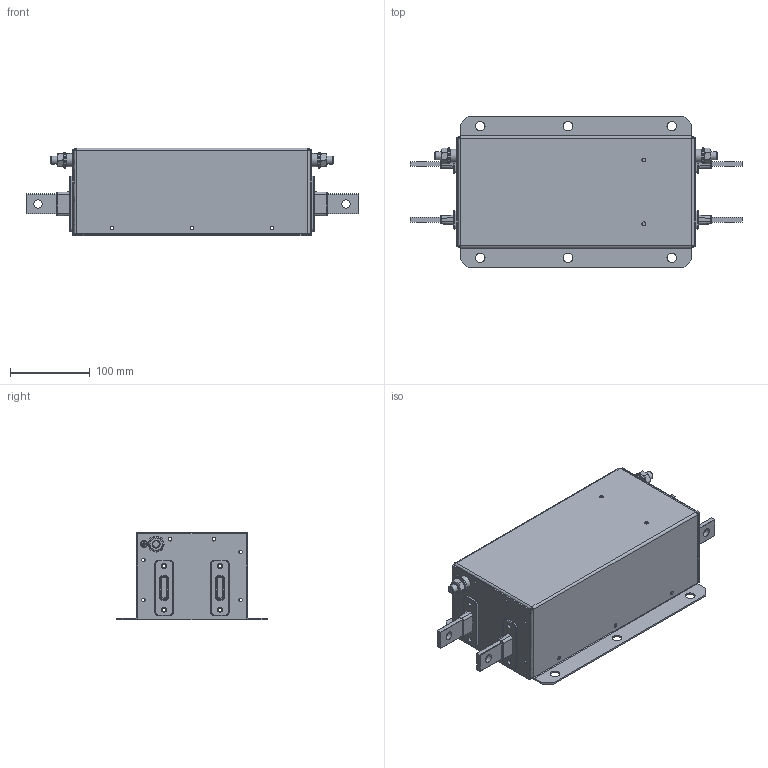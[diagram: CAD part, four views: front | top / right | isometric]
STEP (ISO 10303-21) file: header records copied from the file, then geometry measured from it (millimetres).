
FILE_DESCRIPTION((''),'2;1');
FILE_NAME('L:\INVENTOR_Projektedaten\HousingDesign\FN2200-400-99bla.stp','2010-02-15T16:12:35',('giovanni.asta'),(''),'Autodesk Inventor 2008','Autodesk Inventor 2008','');
FILE_SCHEMA(('AUTOMOTIVE_DESIGN { 1 0 10303 214 1 1 1 1 }'));
Length unit declared in the file: millimetre
Products named in the file (1): FN2200-400-99_forStep
Bounding box: 416 x 190 x 110 mm (x, y, z)
Volume: 548903.2 mm3; surface area: 480303.9 mm2
Topology: 8 solids, 8 shells, 1226 faces, 3371 edges, 2118 vertices
Faces by surface type: plane 467, cylinder 389, bspline 250, torus 80, cone 40
Full cylindrical faces by diameter (mm): 4.1 x7, 4.3 x9, 6 x8, 8 x1, 9 x1, 9.188 x2, 10 x12, 10.5 x4, 12 x3, 13 x1, 15.4 x1, 16.5 x2, 20 x2
Entity records: 42516 total; most frequent: CARTESIAN_POINT 10339, ORIENTED_EDGE 6518, DIRECTION 6208, EDGE_CURVE 3259, VERTEX_POINT 2107, AXIS2_PLACEMENT_3D 2080, VECTOR 2048, LINE 2048
